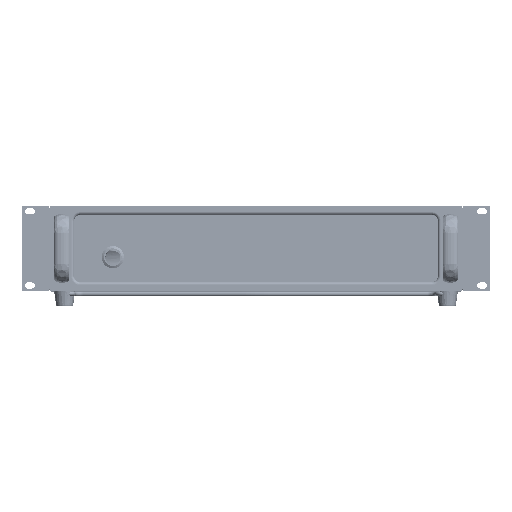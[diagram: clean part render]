
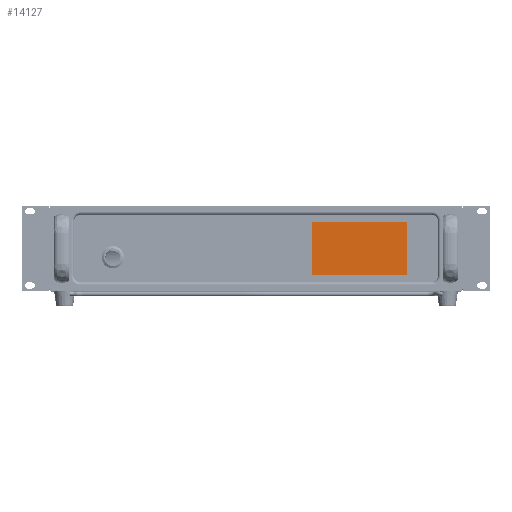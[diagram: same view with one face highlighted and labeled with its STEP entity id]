
A CAD part, top view. The second image highlights one B-rep face of the part: STEP entity #14127.
In plain terms, the highlighted planar face has unit normal (0, 0, 1).
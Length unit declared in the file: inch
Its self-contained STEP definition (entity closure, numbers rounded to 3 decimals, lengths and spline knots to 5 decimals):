
#14127 = ADVANCED_FACE ( 'NONE', ( #553752 ), #115791, .T. ) ;
#18012 = CARTESIAN_POINT ( 'NONE',  ( 18.91717, -1.32168, 9.84919 ) ) ;
#27247 = DIRECTION ( 'NONE',  ( 0., 1., 0. ) ) ;
#30558 = ORIENTED_EDGE ( 'NONE', *, *, #134794, .T. ) ;
#39086 = ORIENTED_EDGE ( 'NONE', *, *, #260796, .T. ) ;
#67958 = DIRECTION ( 'NONE',  ( 1., 0., 0. ) ) ;
#82276 = CARTESIAN_POINT ( 'NONE',  ( 16.86717, -0.04668, 9.84919 ) ) ;
#115791 = PLANE ( 'NONE',  #229190 ) ;
#126395 = VECTOR ( 'NONE', #175202, 39.37008 ) ;
#134794 = EDGE_CURVE ( 'NONE', #616227, #293420, #258487, .T. ) ;
#147556 = VECTOR ( 'NONE', #598764, 39.37008 ) ;
#175202 = DIRECTION ( 'NONE',  ( 0., -1., 0. ) ) ;
#178292 = ORIENTED_EDGE ( 'NONE', *, *, #262978, .T. ) ;
#178608 = LINE ( 'NONE', #548847, #147556 ) ;
#229190 = AXIS2_PLACEMENT_3D ( 'NONE', #18012, #365547, #67958 ) ;
#253283 = ORIENTED_EDGE ( 'NONE', *, *, #625497, .T. ) ;
#258487 = LINE ( 'NONE', #372845, #126395 ) ;
#260796 = EDGE_CURVE ( 'NONE', #572672, #621046, #511364, .T. ) ;
#262470 = VECTOR ( 'NONE', #27247, 39.37008 ) ;
#262978 = EDGE_CURVE ( 'NONE', #293420, #572672, #178608, .T. ) ;
#275629 = CARTESIAN_POINT ( 'NONE',  ( 20.96717, -0.04668, 9.84919 ) ) ;
#293420 = VERTEX_POINT ( 'NONE', #493916 ) ;
#295148 = EDGE_LOOP ( 'NONE', ( #30558, #178292, #39086, #253283 ) ) ;
#308697 = VECTOR ( 'NONE', #325506, 39.37008 ) ;
#324179 = LINE ( 'NONE', #275629, #308697 ) ;
#325506 = DIRECTION ( 'NONE',  ( -1., 0., 0. ) ) ;
#360784 = CARTESIAN_POINT ( 'NONE',  ( 20.96717, -2.59668, 9.84919 ) ) ;
#365547 = DIRECTION ( 'NONE',  ( 0., 0., 1. ) ) ;
#372845 = CARTESIAN_POINT ( 'NONE',  ( 16.86717, -2.59668, 9.84919 ) ) ;
#374656 = CARTESIAN_POINT ( 'NONE',  ( 20.96717, -2.59668, 9.84919 ) ) ;
#493916 = CARTESIAN_POINT ( 'NONE',  ( 16.86717, -2.59668, 9.84919 ) ) ;
#511364 = LINE ( 'NONE', #374656, #262470 ) ;
#540223 = CARTESIAN_POINT ( 'NONE',  ( 20.96717, -0.04668, 9.84919 ) ) ;
#548847 = CARTESIAN_POINT ( 'NONE',  ( 20.96717, -2.59668, 9.84919 ) ) ;
#553752 = FACE_OUTER_BOUND ( 'NONE', #295148, .T. ) ;
#572672 = VERTEX_POINT ( 'NONE', #360784 ) ;
#598764 = DIRECTION ( 'NONE',  ( 1., 0., 0. ) ) ;
#616227 = VERTEX_POINT ( 'NONE', #82276 ) ;
#621046 = VERTEX_POINT ( 'NONE', #540223 ) ;
#625497 = EDGE_CURVE ( 'NONE', #621046, #616227, #324179, .T. ) ;
